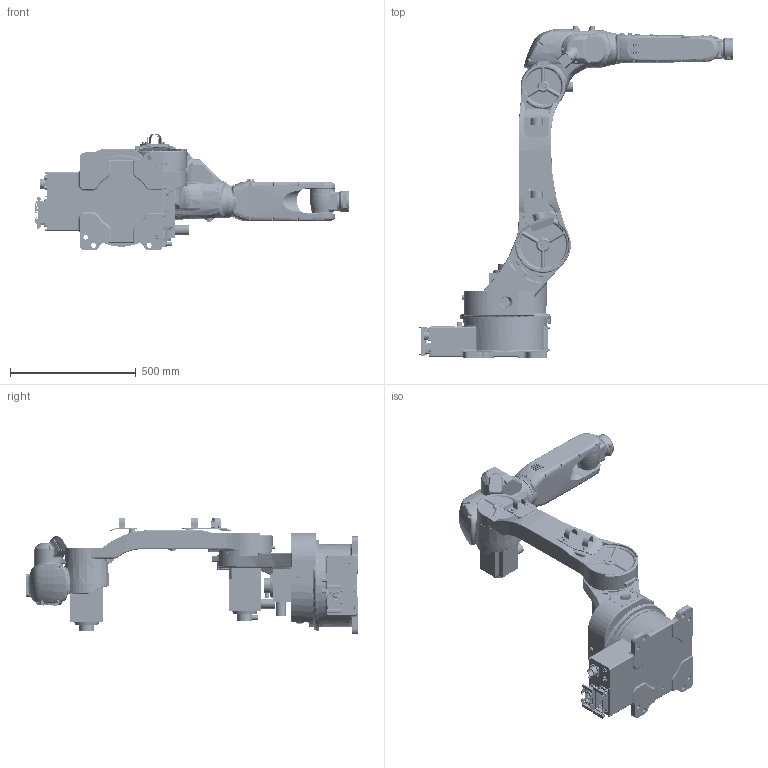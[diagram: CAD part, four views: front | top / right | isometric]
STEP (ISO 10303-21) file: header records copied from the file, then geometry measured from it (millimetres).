
FILE_DESCRIPTION (( 'STEP AP203' ), '1' );
FILE_NAME ('RA012.STEP', '2023-10-30T08:03:14', ( 'user' ), ( '' ), 'SwSTEP 2.0', 'SolidWorks 2017', '' );
FILE_SCHEMA (( 'CONFIG_CONTROL_DESIGN' ));
Length unit declared in the file: millimetre
Products named in the file (63): CABLE COVER_RV11151111120130111; USER I_O (JL05-2A24-28SC-FO151111120130111; KQ2E08-00N (8颇捞 TO 8颇捞)151111120130111; BASE; M_5p0130111; J1-AXIS; M5X15(客寂器窃)0130111; 3-AXIS INPUT GEAR_RV131110130111; M-5HL-60130111; 1208600000151111120130111; BASE FRONT COVER_RV11151111120130111; A-HEAD_01300130111; M8X20(客寂器窃)151111120130111; J6 ADAPTER-02_12KGF0130111; BJI ASM_RV11151111120130111; 錚檜萄 嘆楝 1205000000(4Щ溯歜_95x47)151111120130111; S1-101(S-Base) - 12kgf-50E_RV1311111111120130111; M4X35(客寂器窃)0130111; spring1111111120130111; J5-AXIS; CABLE GUIDE0130111; J6 ADAPTER-03_12KGF0130111; WRIST BODY COVER-01_12KGF0130111; M5X8(客寂器窃)151111120130111; J2-AXIS; 1_8 PLUG(CAP)151111120130111; M3X10(客寂器窃)151111120130111; SOL BLOCK0130111; J6-ADAPTER-01_12KGF0130111; J6 RADUCER ASSY0130111; L-Arm_12kgf_RV11151111120130111; J3 MOTOR ASSY0130111; A-HEAD COVER-010130111; sprimg assy1111111120130111; CABLE BRACKET(2)_RV11151111120130111; JN1AS1ML1-R0130111; 36億菟151111120130111; KQB2E08-010130111; 5MZsldprt0130111; J3-AXIS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
Assembly tree (142 placements, depth 5):
  RA012
    BASE
      S1-101(S-Base) - 12kgf-50E_RV1311111111120130111
      BASE FRONT COVER_RV11151111120130111
      M8X20(客寂器窃)151111120130111  x3
      M4X10(客寂器窃)151111120130111  x10
      BJI ASM_RV11151111120130111
        BJ1 COVER_RV11151111120130111
        4橇饭烙 asm151111120130111
          錚檜萄 嘆楝 1205000000(4Щ溯歜_95x47)151111120130111
          錚檜萄 嘆楝 1651170000(4Щ溯歜_95x47)151111120130111
        KQ2E08-00N (8颇捞 TO 8颇捞)151111120130111  x2
        USER I_O (JL05-2A24-28SC-FO151111120130111
        M4X10(客寂器窃)151111120130111  x8
        1208600000151111120130111
        M3X10(客寂器窃)151111120130111  x4
    J1-AXIS
      S-Head - 12kgf-50E_RV30120130111
      M8X40(客寂器窃)151111120130111  x16
      1_8 PLUG(CAP)151111120130111
      CABLE BRACKET(2)_RV11151111120130111
      CABLE COVER_RV11151111120130111
      M5 TAP TO NIPPLE151111120130111
      sprimg assy1111111120130111  x2
        cable bracket-011111111120130111
        spring1111111120130111
      cable bracket-05120130111
      TSM3565_130陝 2KW151111120130111  x2
    J2-AXIS
      L-Arm_12kgf_RV11151111120130111
      1_8 PLUG(CAP)151111120130111  x2
      cable bracket(3)_RV11151111120130111
      36億菟151111120130111  x3
      M5X8(客寂器窃)151111120130111  x6
      cable bracket(4)_RV11151111120130111
    J3-AXIS
      A-HEAD_01300130111
      M4X35(客寂器窃)0130111
      M4X10(客寂器窃)0130111
      A-HEAD COVER 020130111
      A-HEAD COVER-010130111
      CABLE GUIDE0130111
      J3 MOTOR ASSY0130111
        TSM3565_130陝 2KW151111120130111
        3-AXIS INPUT GEAR_RV131110130111
    J4-AXIS
      WRIST BODT12KGF110130111
      M4X10(客寂器窃)0130111  x3
      WRIST BODY COVER-01_12KGF0130111
      WRIST BODY COVER-02_12KGF0130111
      SOL ASSY0130111
        SOL BLOCK0130111
        M-5HL-60130111  x7
        5MZsldprt0130111  x3
        AN05_M50130111
        M_5p0130111  x2
      KQB2E08-010130111  x2
      JN1AS1ML1-R0130111
    J5-AXIS
      WRIST HOLDER-12KGF1110130111
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Bounding box: 1248.3 x 1321 x 465.5 mm (x, y, z)
Surface area: 4109612.4 mm2 (no closed solid volume)
Topology: 0 solids, 268 shells, 11869 faces, 28808 edges, 17732 vertices
Faces by surface type: cylinder 4547, plane 3976, bspline 1515, cone 998, torus 622, sphere 211
Entity records: 463755 total; most frequent: CARTESIAN_POINT 236267, ORIENTED_EDGE 46465, DIRECTION 44279, EDGE_CURVE 23260, AXIS2_PLACEMENT_3D 17311, VERTEX_POINT 14482, EDGE_LOOP 11008, VECTOR 9657
